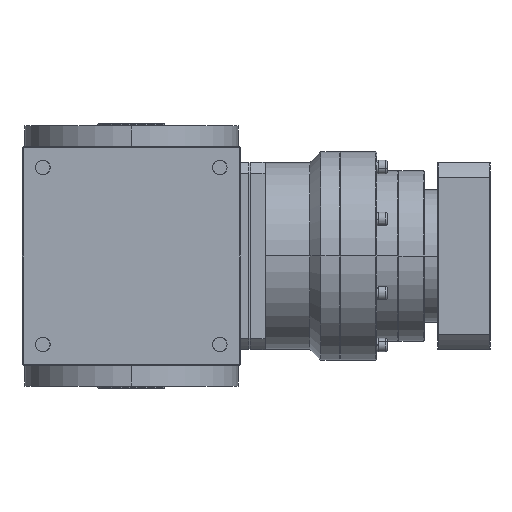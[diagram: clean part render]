
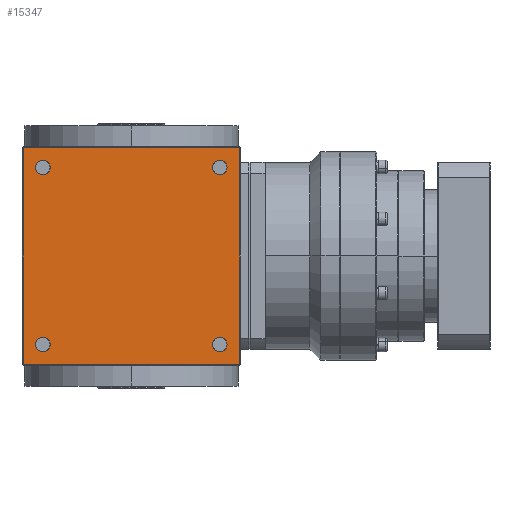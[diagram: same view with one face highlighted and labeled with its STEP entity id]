
A CAD part, left-side view. The second image highlights one B-rep face of the part: STEP entity #15347.
In plain terms, the highlighted planar face has unit normal (-1, 0, 0).
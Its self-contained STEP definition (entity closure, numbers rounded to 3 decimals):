
#478 = DIRECTION ( 'NONE',  ( 1., 0., 0. ) ) ;
#892 = LINE ( 'NONE', #38631, #21035 ) ;
#1604 = CARTESIAN_POINT ( 'NONE',  ( -105., -104., 104. ) ) ;
#1633 = ORIENTED_EDGE ( 'NONE', *, *, #34974, .T. ) ;
#1635 = DIRECTION ( 'NONE',  ( 0., 0., 1. ) ) ;
#1742 = AXIS2_PLACEMENT_3D ( 'NONE', #24096, #26600, #36223 ) ;
#1881 = EDGE_CURVE ( 'NONE', #35430, #23630, #14129, .T. ) ;
#2006 = VECTOR ( 'NONE', #25153, 1000. ) ;
#2233 = EDGE_CURVE ( 'NONE', #18835, #30896, #14353, .T. ) ;
#2553 = EDGE_CURVE ( 'NONE', #24819, #21741, #892, .T. ) ;
#3688 = AXIS2_PLACEMENT_3D ( 'NONE', #29229, #478, #9450 ) ;
#4025 = CIRCLE ( 'NONE', #4678, 7. ) ;
#4678 = AXIS2_PLACEMENT_3D ( 'NONE', #19897, #23033, #28676 ) ;
#6393 = EDGE_LOOP ( 'NONE', ( #14090, #38370 ) ) ;
#7156 = CARTESIAN_POINT ( 'NONE',  ( -105., -85., 78. ) ) ;
#7353 = VERTEX_POINT ( 'NONE', #26770 ) ;
#7781 = DIRECTION ( 'NONE',  ( 0., 0., 1. ) ) ;
#8689 = CARTESIAN_POINT ( 'NONE',  ( -105., 104., 104. ) ) ;
#8791 = EDGE_LOOP ( 'NONE', ( #30461, #14086 ) ) ;
#9134 = CARTESIAN_POINT ( 'NONE',  ( -105., 105., -104. ) ) ;
#9450 = DIRECTION ( 'NONE',  ( 0., 0., 1. ) ) ;
#10734 = DIRECTION ( 'NONE',  ( 1., 0., 0. ) ) ;
#11011 = CARTESIAN_POINT ( 'NONE',  ( -105., -85., -85. ) ) ;
#11151 = VERTEX_POINT ( 'NONE', #20282 ) ;
#13050 = CARTESIAN_POINT ( 'NONE',  ( -105., 0., 104. ) ) ;
#13071 = DIRECTION ( 'NONE',  ( 0., -1., 0. ) ) ;
#13680 = FACE_BOUND ( 'NONE', #16659, .T. ) ;
#13922 = DIRECTION ( 'NONE',  ( 0., 0., 1. ) ) ;
#14086 = ORIENTED_EDGE ( 'NONE', *, *, #2233, .T. ) ;
#14090 = ORIENTED_EDGE ( 'NONE', *, *, #35875, .T. ) ;
#14129 = LINE ( 'NONE', #33139, #18325 ) ;
#14246 = DIRECTION ( 'NONE',  ( 0., 0., 1. ) ) ;
#14353 = CIRCLE ( 'NONE', #1742, 7. ) ;
#14994 = CARTESIAN_POINT ( 'NONE',  ( -105., -85., -92. ) ) ;
#15016 = EDGE_CURVE ( 'NONE', #35262, #27203, #33661, .T. ) ;
#15347 = ADVANCED_FACE ( 'NONE', ( #16388, #32259, #13680, #38737, #29541 ), #35602, .T. ) ;
#15451 = CARTESIAN_POINT ( 'NONE',  ( -105., -85., -78. ) ) ;
#16270 = ORIENTED_EDGE ( 'NONE', *, *, #27473, .T. ) ;
#16388 = FACE_OUTER_BOUND ( 'NONE', #21412, .T. ) ;
#16659 = EDGE_LOOP ( 'NONE', ( #1633, #16270 ) ) ;
#16715 = ORIENTED_EDGE ( 'NONE', *, *, #15016, .T. ) ;
#16801 = CARTESIAN_POINT ( 'NONE',  ( -105., 105., -105. ) ) ;
#17003 = DIRECTION ( 'NONE',  ( -1., 0., 0. ) ) ;
#18280 = DIRECTION ( 'NONE',  ( 0., 1., 0. ) ) ;
#18325 = VECTOR ( 'NONE', #13922, 1000. ) ;
#18386 = VERTEX_POINT ( 'NONE', #34263 ) ;
#18416 = AXIS2_PLACEMENT_3D ( 'NONE', #36193, #26777, #30739 ) ;
#18458 = AXIS2_PLACEMENT_3D ( 'NONE', #11011, #30189, #1635 ) ;
#18835 = VERTEX_POINT ( 'NONE', #14994 ) ;
#19719 = LINE ( 'NONE', #13050, #2006 ) ;
#19897 = CARTESIAN_POINT ( 'NONE',  ( -105., 85., 85. ) ) ;
#20250 = DIRECTION ( 'NONE',  ( 0., 0., -1. ) ) ;
#20282 = CARTESIAN_POINT ( 'NONE',  ( -105., 85., -78. ) ) ;
#20663 = DIRECTION ( 'NONE',  ( 1., 0., 0. ) ) ;
#20698 = CARTESIAN_POINT ( 'NONE',  ( -105., 85., 78. ) ) ;
#21035 = VECTOR ( 'NONE', #20250, 1000. ) ;
#21412 = EDGE_LOOP ( 'NONE', ( #39820, #24773, #30043, #29134 ) ) ;
#21741 = VERTEX_POINT ( 'NONE', #29429 ) ;
#22517 = EDGE_CURVE ( 'NONE', #35430, #21741, #24752, .T. ) ;
#23033 = DIRECTION ( 'NONE',  ( 1., 0., 0. ) ) ;
#23467 = VECTOR ( 'NONE', #18280, 1000. ) ;
#23592 = CARTESIAN_POINT ( 'NONE',  ( -105., -104., -104. ) ) ;
#23630 = VERTEX_POINT ( 'NONE', #1604 ) ;
#24096 = CARTESIAN_POINT ( 'NONE',  ( -105., -85., -85. ) ) ;
#24415 = DIRECTION ( 'NONE',  ( 0., 0., 1. ) ) ;
#24752 = LINE ( 'NONE', #9134, #23467 ) ;
#24773 = ORIENTED_EDGE ( 'NONE', *, *, #30123, .T. ) ;
#24819 = VERTEX_POINT ( 'NONE', #8689 ) ;
#25153 = DIRECTION ( 'NONE',  ( 0., 1., 0. ) ) ;
#25509 = EDGE_LOOP ( 'NONE', ( #33013, #16715 ) ) ;
#25937 = CIRCLE ( 'NONE', #30596, 7. ) ;
#26351 = CARTESIAN_POINT ( 'NONE',  ( -105., 85., -85. ) ) ;
#26600 = DIRECTION ( 'NONE',  ( 1., 0., 0. ) ) ;
#26763 = EDGE_CURVE ( 'NONE', #27203, #35262, #39022, .T. ) ;
#26770 = CARTESIAN_POINT ( 'NONE',  ( -105., 85., 92. ) ) ;
#26777 = DIRECTION ( 'NONE',  ( 1., 0., 0. ) ) ;
#27203 = VERTEX_POINT ( 'NONE', #33358 ) ;
#27473 = EDGE_CURVE ( 'NONE', #18386, #11151, #27742, .T. ) ;
#27742 = CIRCLE ( 'NONE', #18416, 7. ) ;
#28676 = DIRECTION ( 'NONE',  ( 0., 0., 1. ) ) ;
#29134 = ORIENTED_EDGE ( 'NONE', *, *, #22517, .F. ) ;
#29229 = CARTESIAN_POINT ( 'NONE',  ( -105., -85., 85. ) ) ;
#29429 = CARTESIAN_POINT ( 'NONE',  ( -105., 104., -104. ) ) ;
#29541 = FACE_BOUND ( 'NONE', #6393, .T. ) ;
#30043 = ORIENTED_EDGE ( 'NONE', *, *, #2553, .T. ) ;
#30123 = EDGE_CURVE ( 'NONE', #23630, #24819, #19719, .T. ) ;
#30189 = DIRECTION ( 'NONE',  ( 1., 0., 0. ) ) ;
#30461 = ORIENTED_EDGE ( 'NONE', *, *, #40563, .T. ) ;
#30596 = AXIS2_PLACEMENT_3D ( 'NONE', #40090, #20663, #24415 ) ;
#30684 = VERTEX_POINT ( 'NONE', #20698 ) ;
#30739 = DIRECTION ( 'NONE',  ( 0., 0., 1. ) ) ;
#30896 = VERTEX_POINT ( 'NONE', #15451 ) ;
#32259 = FACE_BOUND ( 'NONE', #25509, .T. ) ;
#33013 = ORIENTED_EDGE ( 'NONE', *, *, #26763, .T. ) ;
#33028 = AXIS2_PLACEMENT_3D ( 'NONE', #33622, #37173, #7781 ) ;
#33139 = CARTESIAN_POINT ( 'NONE',  ( -105., -104., -105. ) ) ;
#33358 = CARTESIAN_POINT ( 'NONE',  ( -105., -85., 92. ) ) ;
#33622 = CARTESIAN_POINT ( 'NONE',  ( -105., -85., 85. ) ) ;
#33661 = CIRCLE ( 'NONE', #3688, 7. ) ;
#33907 = CIRCLE ( 'NONE', #39934, 7. ) ;
#34263 = CARTESIAN_POINT ( 'NONE',  ( -105., 85., -92. ) ) ;
#34974 = EDGE_CURVE ( 'NONE', #11151, #18386, #33907, .T. ) ;
#35262 = VERTEX_POINT ( 'NONE', #7156 ) ;
#35430 = VERTEX_POINT ( 'NONE', #23592 ) ;
#35470 = EDGE_CURVE ( 'NONE', #30684, #7353, #25937, .T. ) ;
#35602 = PLANE ( 'NONE',  #38378 ) ;
#35875 = EDGE_CURVE ( 'NONE', #7353, #30684, #4025, .T. ) ;
#36193 = CARTESIAN_POINT ( 'NONE',  ( -105., 85., -85. ) ) ;
#36223 = DIRECTION ( 'NONE',  ( 0., 0., 1. ) ) ;
#37128 = CIRCLE ( 'NONE', #18458, 7. ) ;
#37173 = DIRECTION ( 'NONE',  ( 1., 0., 0. ) ) ;
#38370 = ORIENTED_EDGE ( 'NONE', *, *, #35470, .T. ) ;
#38378 = AXIS2_PLACEMENT_3D ( 'NONE', #16801, #17003, #13071 ) ;
#38631 = CARTESIAN_POINT ( 'NONE',  ( -105., 104., -105. ) ) ;
#38737 = FACE_BOUND ( 'NONE', #8791, .T. ) ;
#39022 = CIRCLE ( 'NONE', #33028, 7. ) ;
#39820 = ORIENTED_EDGE ( 'NONE', *, *, #1881, .T. ) ;
#39934 = AXIS2_PLACEMENT_3D ( 'NONE', #26351, #10734, #14246 ) ;
#40090 = CARTESIAN_POINT ( 'NONE',  ( -105., 85., 85. ) ) ;
#40563 = EDGE_CURVE ( 'NONE', #30896, #18835, #37128, .T. ) ;
